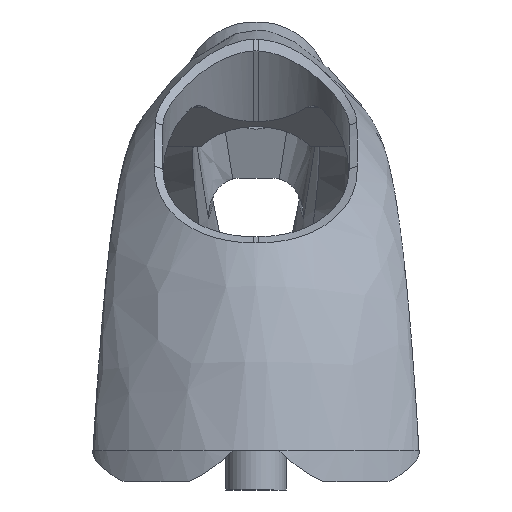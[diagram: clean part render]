
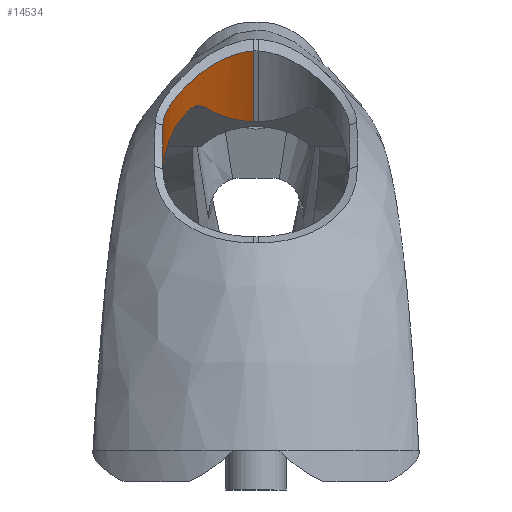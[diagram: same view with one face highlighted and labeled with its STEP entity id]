
A CAD part, front view. The second image highlights one B-rep face of the part: STEP entity #14534.
In plain terms, the highlighted cylindrical face has radius 8.8 mm (diameter 17.6 mm), a partial arc.
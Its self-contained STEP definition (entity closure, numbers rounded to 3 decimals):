
#10730 = VERTEX_POINT('',#10731);
#10731 = CARTESIAN_POINT('',(-0.2,-8.02,54.57));
#10902 = VERTEX_POINT('',#10903);
#10903 = CARTESIAN_POINT('',(-9.,-14.039,47.395));
#10908 = EDGE_CURVE('',#10902,#10730,#10909,.T.);
#10909 = B_SPLINE_CURVE_WITH_KNOTS('',12,(#10910,#10911,#10912,#10913,
    #10914,#10915,#10916,#10917,#10918,#10919,#10920,#10921,#10922,
    #10923,#10924,#10925,#10926,#10927,#10928,#10929,#10930,#10931,
    #10932,#10933),.UNSPECIFIED.,.F.,.F.,(13,11,13),(59.476,
    66.63,73.996),.UNSPECIFIED.);
#10910 = CARTESIAN_POINT('',(-9.,-14.039,47.395));
#10911 = CARTESIAN_POINT('',(-9.,-13.486,
    47.696));
#10912 = CARTESIAN_POINT('',(-8.951,-12.931,
    48.021));
#10913 = CARTESIAN_POINT('',(-8.849,-12.406,
    48.361));
#10914 = CARTESIAN_POINT('',(-8.702,-11.879,
    48.721));
#10915 = CARTESIAN_POINT('',(-8.497,-11.403,
    49.099));
#10916 = CARTESIAN_POINT('',(-8.258,-10.948,
    49.479));
#10917 = CARTESIAN_POINT('',(-7.968,-10.539,
    49.876));
#10918 = CARTESIAN_POINT('',(-7.656,-10.172,
    50.262));
#10919 = CARTESIAN_POINT('',(-7.31,-9.842,
    50.651));
#10920 = CARTESIAN_POINT('',(-6.944,-9.551,
    51.03));
#10921 = CARTESIAN_POINT('',(-6.557,-9.295,
    51.4));
#10922 = CARTESIAN_POINT('',(-5.734,-8.843,
    52.126));
#10923 = CARTESIAN_POINT('',(-5.298,-8.648,
    52.481));
#10924 = CARTESIAN_POINT('',(-4.846,-8.485,
    52.82));
#10925 = CARTESIAN_POINT('',(-4.376,-8.351,
    53.144));
#10926 = CARTESIAN_POINT('',(-3.904,-8.242,
    53.435));
#10927 = CARTESIAN_POINT('',(-3.393,-8.156,
    53.722));
#10928 = CARTESIAN_POINT('',(-2.902,-8.095,
    53.958));
#10929 = CARTESIAN_POINT('',(-2.367,-8.048,
    54.179));
#10930 = CARTESIAN_POINT('',(-1.838,-8.022,
    54.352));
#10931 = CARTESIAN_POINT('',(-1.291,-8.01,
    54.48));
#10932 = CARTESIAN_POINT('',(-0.744,-8.01,
    54.554));
#10933 = CARTESIAN_POINT('',(-0.2,-8.02,54.57));
#13948 = VERTEX_POINT('',#13949);
#13949 = CARTESIAN_POINT('',(-4.907,-6.458,
    49.135));
#13955 = EDGE_CURVE('',#13948,#13956,#13958,.T.);
#13956 = VERTEX_POINT('',#13957);
#13957 = CARTESIAN_POINT('',(-0.2,-4.094,47.771));
#13958 = ELLIPSE('',#13959,17.6,8.8);
#13959 = AXIS2_PLACEMENT_3D('',#13960,#13961,#13962);
#13960 = CARTESIAN_POINT('',(-0.2,-19.336,56.571));
#13961 = DIRECTION('',(0.,-0.5,-0.866));
#13962 = DIRECTION('',(0.,0.866,-0.5));
#14523 = EDGE_CURVE('',#10730,#13956,#14524,.T.);
#14524 = LINE('',#14525,#14526);
#14525 = CARTESIAN_POINT('',(-0.2,-5.835,50.786));
#14526 = VECTOR('',#14527,1.);
#14527 = DIRECTION('',(0.,0.5,-0.866));
#14534 = ADVANCED_FACE('',(#14535),#14592,.F.);
#14535 = FACE_BOUND('',#14536,.F.);
#14536 = EDGE_LOOP('',(#14537,#14548,#14554,#14555,#14556,#14557));
#14537 = ORIENTED_EDGE('',*,*,#14538,.F.);
#14538 = EDGE_CURVE('',#14539,#14541,#14543,.T.);
#14539 = VERTEX_POINT('',#14540);
#14540 = CARTESIAN_POINT('',(-9.,-11.328,42.7));
#14541 = VERTEX_POINT('',#14542);
#14542 = CARTESIAN_POINT('',(-6.572,-7.824,
    48.769));
#14543 = ELLIPSE('',#14544,10.161,8.8);
#14544 = AXIS2_PLACEMENT_3D('',#14545,#14546,#14547);
#14545 = CARTESIAN_POINT('',(-0.2,-11.328,42.7));
#14546 = DIRECTION('',(0.,0.866,-0.5));
#14547 = DIRECTION('',(0.,-0.5,-0.866));
#14548 = ORIENTED_EDGE('',*,*,#14549,.F.);
#14549 = EDGE_CURVE('',#10902,#14539,#14550,.T.);
#14550 = LINE('',#14551,#14552);
#14551 = CARTESIAN_POINT('',(-9.,-13.456,46.386));
#14552 = VECTOR('',#14553,1.);
#14553 = DIRECTION('',(0.,0.5,-0.866));
#14554 = ORIENTED_EDGE('',*,*,#10908,.T.);
#14555 = ORIENTED_EDGE('',*,*,#14523,.T.);
#14556 = ORIENTED_EDGE('',*,*,#13955,.F.);
#14557 = ORIENTED_EDGE('',*,*,#14558,.F.);
#14558 = EDGE_CURVE('',#14541,#13948,#14559,.T.);
#14559 = B_SPLINE_CURVE_WITH_KNOTS('',7,(#14560,#14561,#14562,#14563,
    #14564,#14565,#14566,#14567,#14568,#14569,#14570,#14571,#14572,
    #14573,#14574,#14575,#14576,#14577,#14578,#14579,#14580,#14581,
    #14582,#14583,#14584,#14585,#14586,#14587,#14588,#14589,#14590,
    #14591),.UNSPECIFIED.,.F.,.F.,(8,6,6,6,6,8),(0.,0.214,
    0.6,0.825,0.901,1.),.UNSPECIFIED.);
#14560 = CARTESIAN_POINT('',(-6.572,-7.824,
    48.769));
#14561 = CARTESIAN_POINT('',(-6.528,-7.797,
    48.816));
#14562 = CARTESIAN_POINT('',(-6.482,-7.768,
    48.86));
#14563 = CARTESIAN_POINT('',(-6.434,-7.736,
    48.902));
#14564 = CARTESIAN_POINT('',(-6.385,-7.702,
    48.941));
#14565 = CARTESIAN_POINT('',(-6.335,-7.667,
    48.978));
#14566 = CARTESIAN_POINT('',(-6.284,-7.63,
    49.012));
#14567 = CARTESIAN_POINT('',(-6.138,-7.522,
    49.1));
#14568 = CARTESIAN_POINT('',(-6.042,-7.449,
    49.148));
#14569 = CARTESIAN_POINT('',(-5.944,-7.372,
    49.187));
#14570 = CARTESIAN_POINT('',(-5.845,-7.294,
    49.219));
#14571 = CARTESIAN_POINT('',(-5.746,-7.214,
    49.242));
#14572 = CARTESIAN_POINT('',(-5.648,-7.132,
    49.257));
#14573 = CARTESIAN_POINT('',(-5.494,-7.003,
    49.269));
#14574 = CARTESIAN_POINT('',(-5.437,-6.955,
    49.271));
#14575 = CARTESIAN_POINT('',(-5.381,-6.907,
    49.27));
#14576 = CARTESIAN_POINT('',(-5.326,-6.859,
    49.267));
#14577 = CARTESIAN_POINT('',(-5.272,-6.811,
    49.26));
#14578 = CARTESIAN_POINT('',(-5.219,-6.763,
    49.251));
#14579 = CARTESIAN_POINT('',(-5.15,-6.699,
    49.235));
#14580 = CARTESIAN_POINT('',(-5.132,-6.683,
    49.231));
#14581 = CARTESIAN_POINT('',(-5.115,-6.667,
    49.226));
#14582 = CARTESIAN_POINT('',(-5.098,-6.651,
    49.221));
#14583 = CARTESIAN_POINT('',(-5.081,-6.635,
    49.216));
#14584 = CARTESIAN_POINT('',(-5.065,-6.619,
    49.21));
#14585 = CARTESIAN_POINT('',(-5.027,-6.582,
    49.196));
#14586 = CARTESIAN_POINT('',(-5.006,-6.561,
    49.188));
#14587 = CARTESIAN_POINT('',(-4.985,-6.54,
    49.179));
#14588 = CARTESIAN_POINT('',(-4.965,-6.52,
    49.169));
#14589 = CARTESIAN_POINT('',(-4.945,-6.499,
    49.158));
#14590 = CARTESIAN_POINT('',(-4.926,-6.478,
    49.147));
#14591 = CARTESIAN_POINT('',(-4.907,-6.458,
    49.135));
#14592 = CYLINDRICAL_SURFACE('',#14593,8.8);
#14593 = AXIS2_PLACEMENT_3D('',#14594,#14595,#14596);
#14594 = CARTESIAN_POINT('',(-0.2,-13.456,46.386));
#14595 = DIRECTION('',(0.,0.5,-0.866));
#14596 = DIRECTION('',(-1.,0.,0.));
